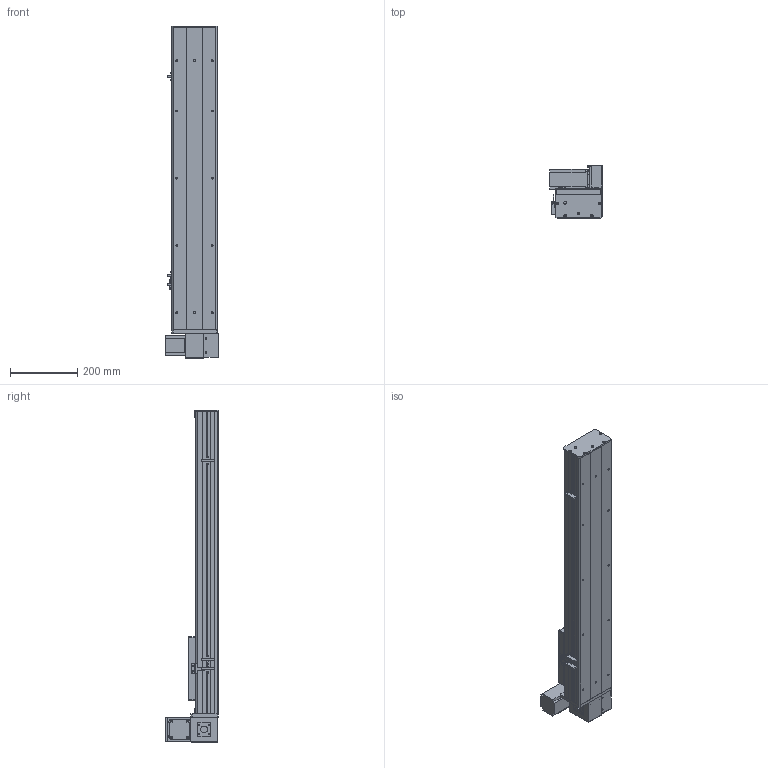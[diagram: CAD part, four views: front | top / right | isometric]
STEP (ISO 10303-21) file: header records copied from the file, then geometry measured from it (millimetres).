
FILE_DESCRIPTION (( 'STEP AP203' ), '1' );
FILE_NAME ('Y135CB-D90-S600-UL-P400W.STEP', '2020-02-18T07:10:00', ( '微软用户' ), ( '微软中国' ), 'SwSTEP 2.0', 'SolidWorks 2017', '' );
FILE_SCHEMA (( 'CONFIG_CONTROL_DESIGN' ));
Length unit declared in the file: millimetre
Products named in the file (18): C-詩湍揤踡え-陔; Y135CB-耜裔; Y135CB-D90-S600-UL-P400W; 135CB--詩湍-CE; 135CB---遴掛极.-; Y100-135俋离換覜ん--; 35CB---喘謫眊楊擘啣; Y135C-陔俋离換覜結え-; 0B-埴倛裔啣; 5C--俋欶; 0B-源倛裔啣; C-雄赽釱--; 0B-萇儂楊擘啣; Y10B-耜蚾蟀諉啣----; san松下电机400不带刹车----; 00B-俋欶BM--; 5CB --掛极耜裔啣-; Y10B--々湍喘謫眊--666
Assembly tree (21 placements, depth 2):
  Y135CB-D90-S600-UL-P400W
    Y135CB-耜裔
    135CB---遴掛极.-
    35CB---喘謫眊楊擘啣
    0B-埴倛裔啣
    0B-源倛裔啣
    0B-萇儂楊擘啣
    san松下电机400不带刹车----
    5CB --掛极耜裔啣-  x2
    C-詩湍揤踡え-陔  x2
    135CB--詩湍-CE
    Y100-135俋离換覜ん--  x3
    Y135C-陔俋离換覜結え-
    5C--俋欶
    C-雄赽釱--
    Y10B-耜蚾蟀諉啣----
    00B-俋欶BM--
    Y10B--々湍喘謫眊--666
Bounding box: 157 x 158.7 x 988 mm (x, y, z)
Volume: 3347688.2 mm3; surface area: 1299211.1 mm2
Topology: 21 solids, 21 shells, 937 faces, 2491 edges, 1650 vertices
Faces by surface type: cylinder 465, plane 456, cone 16
Entity records: 28945 total; most frequent: DIRECTION 4807, CARTESIAN_POINT 4724, ORIENTED_EDGE 4458, EDGE_CURVE 2229, AXIS2_PLACEMENT_3D 1749, VERTEX_POINT 1478, LINE 1309, VECTOR 1309
